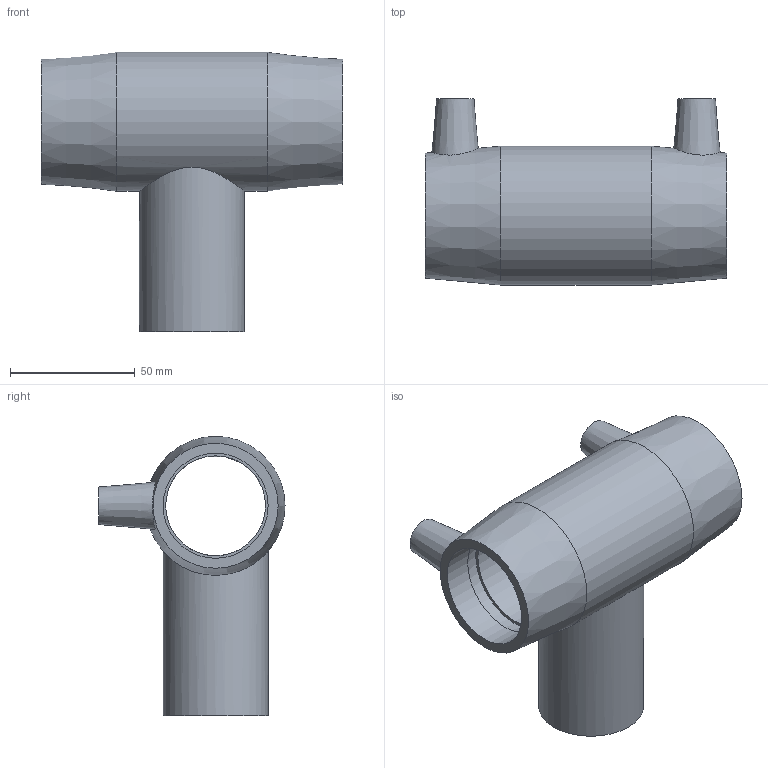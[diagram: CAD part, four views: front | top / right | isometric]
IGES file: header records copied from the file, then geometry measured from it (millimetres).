
Global section: file name: 5904B003013.ipt; native system: Autodesk Inventor 2019; preprocessor: unknown; author: KIM; date: 20210830.100943; units: inch
Bounding box: 120.9 x 74.55 x 111.89 mm (x, y, z)
Volume: 146157.9 mm3; surface area: 54027.1 mm2
Topology: 1 solids, 1 shells, 31 faces, 72 edges, 52 vertices
Faces by surface type: plane 13, revolution 10, cylinder 4, cone 4
Full cylindrical faces by diameter (mm): 4.8 x2, 42.1 x1, 55.626 x1
